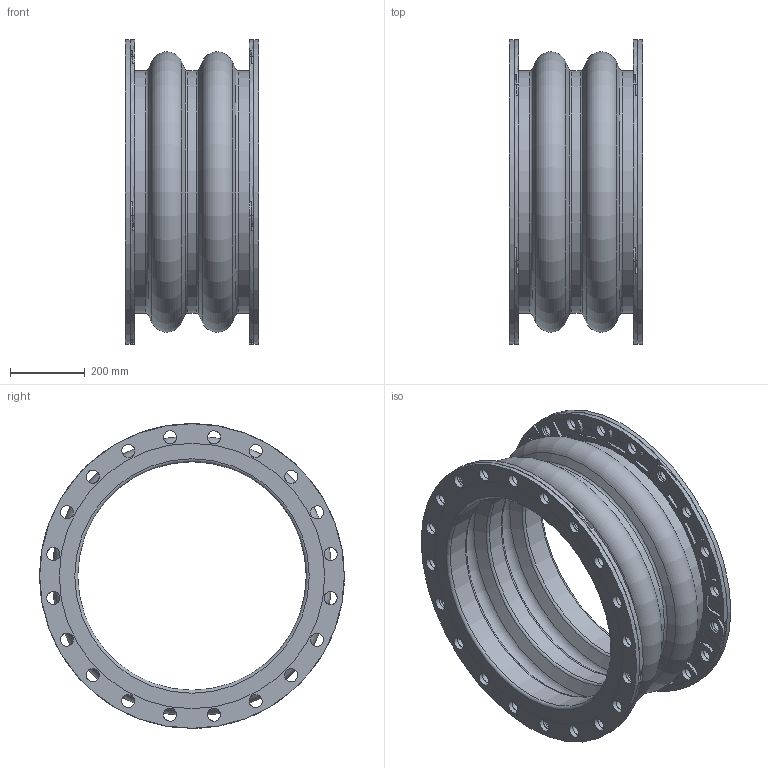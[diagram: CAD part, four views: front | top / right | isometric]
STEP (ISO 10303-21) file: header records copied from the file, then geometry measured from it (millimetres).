
FILE_DESCRIPTION(/* description */ (''),/* implementation_level */ '2;1');
FILE_NAME(/* name */ 'C:\001_Work\Designs\Mercer2014\702 24IDx14FF.stp',/* time_stamp */ '2016-04-10T14:38:23-04:00',/* author */ ('rramoutar'),/* organization */ ('Mason Industries Inc.'),/* preprocessor_version */ 'ST-DEVELOPER v15.6',/* originating_system */ 'Autodesk Inventor 2015',/* authorisation */ '');
FILE_SCHEMA (('CONFIG_CONTROL_DESIGN'));
Products named in the file (1): 702 24IDx14FF
Bounding box: 355.6 x 812.8 x 812.8 mm (x, y, z)
Volume: 25414976.8 mm3; surface area: 3727735.3 mm2
Topology: 11 solids, 11 shells, 2746 faces, 7366 edges, 4906 vertices
Faces by surface type: plane 1256, bspline 990, cylinder 458, torus 34, cone 8
Full cylindrical faces by diameter (mm): 34.925 x90, 609.6 x3, 646.112 x3, 812.8 x2
Entity records: 96731 total; most frequent: CARTESIAN_POINT 31179, ORIENTED_EDGE 14472, DIRECTION 9726, EDGE_CURVE 7236, VERTEX_POINT 4896, LINE 4220, VECTOR 4220, EDGE_LOOP 3312
